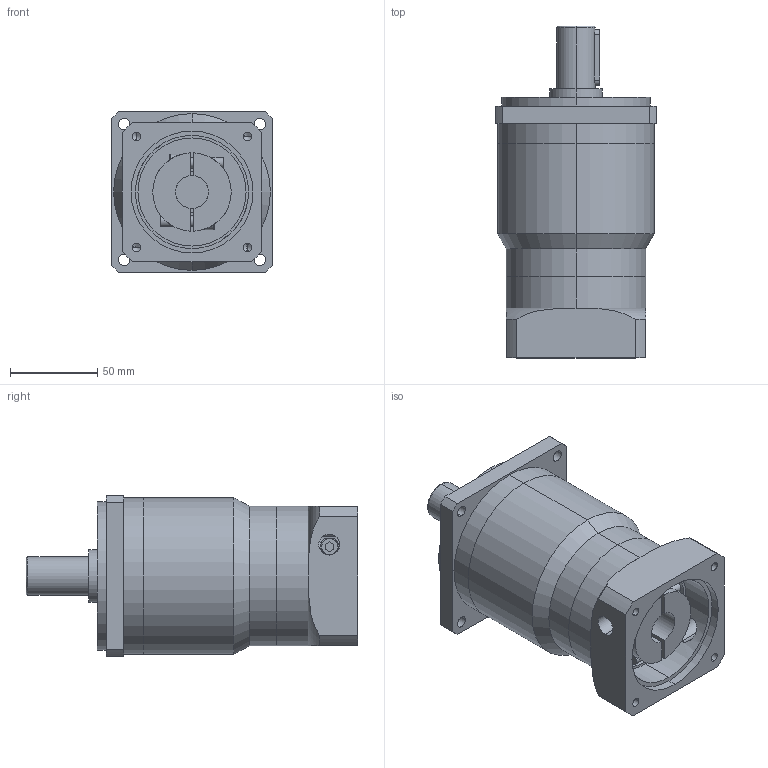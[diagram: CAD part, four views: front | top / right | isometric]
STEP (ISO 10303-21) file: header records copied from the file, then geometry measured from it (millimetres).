
FILE_DESCRIPTION (( 'STEP AP203' ), '1' );
FILE_NAME ('WPF090ﾐﾂ-L2(750W)ﾍ簟ﾎﾍｼ(19-41-70-90-M6).STEP', '2018-09-07T02:17:04', ( 'wanshsin' ), ( 'Microsoft' ), 'SwSTEP 2.0', 'SolidWorks 2016', '' );
FILE_SCHEMA (( 'CONFIG_CONTROL_DESIGN' ));
Length unit declared in the file: millimetre
Products named in the file (1): WPF090ﾐﾂ-L2(750W)ﾍ簟ﾎﾍｼ(19-41-70-90-M6)
Bounding box: 92 x 190.5 x 92 mm (x, y, z)
Volume: 846094.1 mm3; surface area: 103139.5 mm2
Topology: 4 solids, 4 shells, 163 faces, 378 edges, 235 vertices
Faces by surface type: cylinder 78, plane 59, cone 16, torus 10
Entity records: 5297 total; most frequent: CARTESIAN_POINT 1411, DIRECTION 848, ORIENTED_EDGE 736, EDGE_CURVE 368, AXIS2_PLACEMENT_3D 336, VERTEX_POINT 235, EDGE_LOOP 203, VECTOR 176
